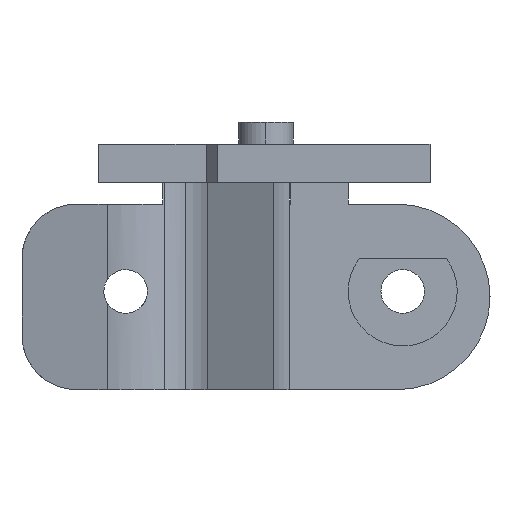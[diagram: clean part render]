
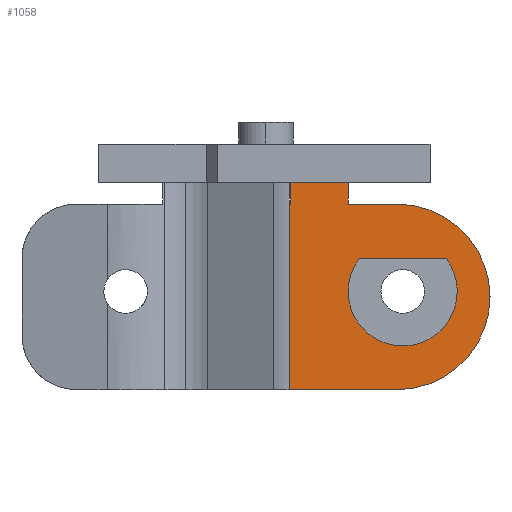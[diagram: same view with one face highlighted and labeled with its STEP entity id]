
A CAD part, left-side view. The second image highlights one B-rep face of the part: STEP entity #1058.
In plain terms, the highlighted planar face has unit normal (-1, 0, 0).
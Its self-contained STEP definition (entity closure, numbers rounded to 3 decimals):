
#945 = VERTEX_POINT ( 'NONE', #2679 ) ;
#957 = EDGE_CURVE ( 'NONE', #1033, #945, #2722, .T. ) ;
#994 = EDGE_LOOP ( 'NONE', ( #1076, #1103, #1107, #1095 ) ) ;
#1004 = EDGE_CURVE ( 'NONE', #1044, #1033, #2666, .T. ) ;
#1028 = VERTEX_POINT ( 'NONE', #2905 ) ;
#1033 = VERTEX_POINT ( 'NONE', #2894 ) ;
#1044 = VERTEX_POINT ( 'NONE', #2953 ) ;
#1058 = ADVANCED_FACE ( 'NONE', ( #2901, #2904 ), #2733, .F. ) ;
#1059 = EDGE_CURVE ( 'NONE', #1104, #1028, #2744, .T. ) ;
#1063 = EDGE_CURVE ( 'NONE', #1120, #1065, #2999, .T. ) ;
#1065 = VERTEX_POINT ( 'NONE', #3007 ) ;
#1066 = EDGE_CURVE ( 'NONE', #1113, #1028, #2997, .T. ) ;
#1074 = EDGE_CURVE ( 'NONE', #1102, #1044, #2974, .T. ) ;
#1076 = ORIENTED_EDGE ( 'NONE', *, *, #1074, .F. ) ;
#1084 = ORIENTED_EDGE ( 'NONE', *, *, #1109, .F. ) ;
#1086 = EDGE_CURVE ( 'NONE', #945, #1102, #2844, .T. ) ;
#1087 = EDGE_LOOP ( 'NONE', ( #1100, #1088, #1092, #1118, #1101, #1108, #1112, #1084 ) ) ;
#1088 = ORIENTED_EDGE ( 'NONE', *, *, #1063, .F. ) ;
#1092 = ORIENTED_EDGE ( 'NONE', *, *, #1099, .F. ) ;
#1093 = VERTEX_POINT ( 'NONE', #2869 ) ;
#1094 = EDGE_CURVE ( 'NONE', #1113, #1111, #2965, .T. ) ;
#1095 = ORIENTED_EDGE ( 'NONE', *, *, #1004, .F. ) ;
#1099 = EDGE_CURVE ( 'NONE', #1111, #1120, #3030, .T. ) ;
#1100 = ORIENTED_EDGE ( 'NONE', *, *, #1116, .F. ) ;
#1101 = ORIENTED_EDGE ( 'NONE', *, *, #1066, .T. ) ;
#1102 = VERTEX_POINT ( 'NONE', #3034 ) ;
#1103 = ORIENTED_EDGE ( 'NONE', *, *, #1086, .F. ) ;
#1104 = VERTEX_POINT ( 'NONE', #3031 ) ;
#1106 = VERTEX_POINT ( 'NONE', #3032 ) ;
#1107 = ORIENTED_EDGE ( 'NONE', *, *, #957, .F. ) ;
#1108 = ORIENTED_EDGE ( 'NONE', *, *, #1059, .F. ) ;
#1109 = EDGE_CURVE ( 'NONE', #1106, #1093, #3020, .T. ) ;
#1110 = EDGE_CURVE ( 'NONE', #1093, #1104, #3026, .T. ) ;
#1111 = VERTEX_POINT ( 'NONE', #3052 ) ;
#1112 = ORIENTED_EDGE ( 'NONE', *, *, #1110, .F. ) ;
#1113 = VERTEX_POINT ( 'NONE', #3066 ) ;
#1116 = EDGE_CURVE ( 'NONE', #1065, #1106, #3064, .T. ) ;
#1118 = ORIENTED_EDGE ( 'NONE', *, *, #1094, .F. ) ;
#1120 = VERTEX_POINT ( 'NONE', #3061 ) ;
#2666 = CIRCLE ( 'NONE', #2692, 5. ) ;
#2679 = CARTESIAN_POINT ( 'NONE',  ( 154.9, 67.3, -6.358 ) ) ;
#2689 = AXIS2_PLACEMENT_3D ( 'NONE', #2728, #2737, #2741 ) ;
#2692 = AXIS2_PLACEMENT_3D ( 'NONE', #2695, #2694, #2698 ) ;
#2694 = DIRECTION ( 'NONE',  ( -1., 0., 0. ) ) ;
#2695 = CARTESIAN_POINT ( 'NONE',  ( 154.9, 71.3, -9.358 ) ) ;
#2698 = DIRECTION ( 'NONE',  ( 0., 1., 0. ) ) ;
#2708 = CARTESIAN_POINT ( 'NONE',  ( 154.9, 71.3, -9.358 ) ) ;
#2711 = DIRECTION ( 'NONE',  ( 0., 1., 0. ) ) ;
#2712 = DIRECTION ( 'NONE',  ( -1., 0., 0. ) ) ;
#2722 = CIRCLE ( 'NONE', #2726, 5. ) ;
#2726 = AXIS2_PLACEMENT_3D ( 'NONE', #2708, #2712, #2711 ) ;
#2728 = CARTESIAN_POINT ( 'NONE',  ( 154.9, 71.8, -9.858 ) ) ;
#2731 = AXIS2_PLACEMENT_3D ( 'NONE', #2747, #2751, #2750 ) ;
#2733 = PLANE ( 'NONE',  #2731 ) ;
#2737 = DIRECTION ( 'NONE',  ( 1., 0., 0. ) ) ;
#2741 = DIRECTION ( 'NONE',  ( 0., -1., 0. ) ) ;
#2744 = CIRCLE ( 'NONE', #2689, 8.5 ) ;
#2747 = CARTESIAN_POINT ( 'NONE',  ( 154.9, 63.3, -18.358 ) ) ;
#2750 = DIRECTION ( 'NONE',  ( 0., 1., 0. ) ) ;
#2751 = DIRECTION ( 'NONE',  ( 1., 0., 0. ) ) ;
#2786 = DIRECTION ( 'NONE',  ( 0., 1., 0. ) ) ;
#2817 = VECTOR ( 'NONE', #2786, 1000. ) ;
#2843 = CARTESIAN_POINT ( 'NONE',  ( 154.9, 75.3, -6.358 ) ) ;
#2844 = LINE ( 'NONE', #2843, #2817 ) ;
#2869 = CARTESIAN_POINT ( 'NONE',  ( 154.9, 76.3, -1.358 ) ) ;
#2894 = CARTESIAN_POINT ( 'NONE',  ( 154.9, 66.3, -9.358 ) ) ;
#2901 = FACE_OUTER_BOUND ( 'NONE', #1087, .T. ) ;
#2904 = FACE_BOUND ( 'NONE', #994, .T. ) ;
#2905 = CARTESIAN_POINT ( 'NONE',  ( 154.9, 71.8, -18.358 ) ) ;
#2953 = CARTESIAN_POINT ( 'NONE',  ( 154.9, 76.3, -9.358 ) ) ;
#2963 = AXIS2_PLACEMENT_3D ( 'NONE', #2981, #2970, #2967 ) ;
#2964 = CARTESIAN_POINT ( 'NONE',  ( 154.9, 81.716, -18.358 ) ) ;
#2965 = LINE ( 'NONE', #2964, #2972 ) ;
#2966 = DIRECTION ( 'NONE',  ( 0., 0., 1. ) ) ;
#2967 = DIRECTION ( 'NONE',  ( 0., 1., 0. ) ) ;
#2970 = DIRECTION ( 'NONE',  ( -1., 0., 0. ) ) ;
#2972 = VECTOR ( 'NONE', #2966, 1000. ) ;
#2974 = CIRCLE ( 'NONE', #2963, 5. ) ;
#2981 = CARTESIAN_POINT ( 'NONE',  ( 154.9, 71.3, -9.358 ) ) ;
#2986 = CARTESIAN_POINT ( 'NONE',  ( 154.9, 81.615, -1.358 ) ) ;
#2990 = DIRECTION ( 'NONE',  ( 0., -1., 0. ) ) ;
#2991 = VECTOR ( 'NONE', #2990, 1000. ) ;
#2996 = CARTESIAN_POINT ( 'NONE',  ( 154.9, 81.716, -18.358 ) ) ;
#2997 = LINE ( 'NONE', #2996, #2991 ) ;
#2998 = DIRECTION ( 'NONE',  ( 0., 0., 1. ) ) ;
#2999 = LINE ( 'NONE', #2986, #3000 ) ;
#3000 = VECTOR ( 'NONE', #2998, 1000. ) ;
#3007 = CARTESIAN_POINT ( 'NONE',  ( 154.9, 81.615, 0.642 ) ) ;
#3017 = CARTESIAN_POINT ( 'NONE',  ( 154.9, 81.716, -1.358 ) ) ;
#3018 = DIRECTION ( 'NONE',  ( 0., -1., 0. ) ) ;
#3019 = DIRECTION ( 'NONE',  ( 0., -1., 0. ) ) ;
#3020 = LINE ( 'NONE', #3037, #3028 ) ;
#3024 = VECTOR ( 'NONE', #3019, 1000. ) ;
#3025 = CARTESIAN_POINT ( 'NONE',  ( 154.9, 63.3, -1.358 ) ) ;
#3026 = LINE ( 'NONE', #3025, #3035 ) ;
#3028 = VECTOR ( 'NONE', #3038, 1000. ) ;
#3030 = LINE ( 'NONE', #3017, #3024 ) ;
#3031 = CARTESIAN_POINT ( 'NONE',  ( 154.9, 71.8, -1.358 ) ) ;
#3032 = CARTESIAN_POINT ( 'NONE',  ( 154.9, 76.3, 0.642 ) ) ;
#3034 = CARTESIAN_POINT ( 'NONE',  ( 154.9, 75.3, -6.358 ) ) ;
#3035 = VECTOR ( 'NONE', #3018, 1000. ) ;
#3037 = CARTESIAN_POINT ( 'NONE',  ( 154.9, 76.3, 0.642 ) ) ;
#3038 = DIRECTION ( 'NONE',  ( 0., 0., -1. ) ) ;
#3052 = CARTESIAN_POINT ( 'NONE',  ( 154.9, 81.716, -1.358 ) ) ;
#3061 = CARTESIAN_POINT ( 'NONE',  ( 154.9, 81.615, -1.358 ) ) ;
#3063 = CARTESIAN_POINT ( 'NONE',  ( 154.9, 76.3, 0.642 ) ) ;
#3064 = LINE ( 'NONE', #3063, #3069 ) ;
#3066 = CARTESIAN_POINT ( 'NONE',  ( 154.9, 81.716, -18.358 ) ) ;
#3068 = DIRECTION ( 'NONE',  ( 0., -1., 0. ) ) ;
#3069 = VECTOR ( 'NONE', #3068, 1000. ) ;
